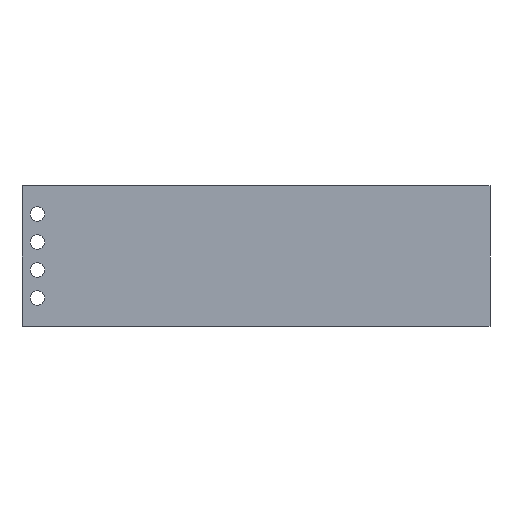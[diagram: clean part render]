
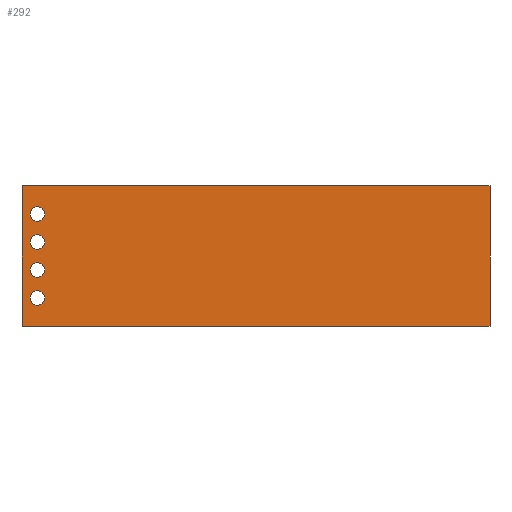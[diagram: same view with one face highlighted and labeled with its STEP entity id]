
A CAD part, front view. The second image highlights one B-rep face of the part: STEP entity #292.
In plain terms, the highlighted planar face has unit normal (0, -1, 0).
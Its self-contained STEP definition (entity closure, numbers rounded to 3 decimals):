
#25 = ORIENTED_EDGE ( 'NONE', *, *, #1377, .F. ) ;
#46 = EDGE_CURVE ( 'NONE', #1012, #1790, #1144, .T. ) ;
#86 = ORIENTED_EDGE ( 'NONE', *, *, #1474, .T. ) ;
#97 = VERTEX_POINT ( 'NONE', #146 ) ;
#127 = CARTESIAN_POINT ( 'NONE',  ( 98.049, -1.134, -16.2 ) ) ;
#128 = ORIENTED_EDGE ( 'NONE', *, *, #1263, .F. ) ;
#135 = DIRECTION ( 'NONE',  ( 1., 0., 0. ) ) ;
#140 = LINE ( 'NONE', #615, #344 ) ;
#146 = CARTESIAN_POINT ( 'NONE',  ( 98.049, -1.134, -6.8 ) ) ;
#161 = EDGE_LOOP ( 'NONE', ( #999, #505 ) ) ;
#178 = PLANE ( 'NONE',  #727 ) ;
#213 = CARTESIAN_POINT ( 'NONE',  ( 98.049, -1.134, -23. ) ) ;
#281 = CIRCLE ( 'NONE', #519, 1.4 ) ;
#292 = ADVANCED_FACE ( 'NONE', ( #666, #338, #1668, #977, #320 ), #178, .T. ) ;
#320 = FACE_OUTER_BOUND ( 'NONE', #1418, .T. ) ;
#338 = FACE_BOUND ( 'NONE', #1604, .T. ) ;
#344 = VECTOR ( 'NONE', #1285, 1000. ) ;
#374 = VECTOR ( 'NONE', #135, 1000. ) ;
#377 = VERTEX_POINT ( 'NONE', #526 ) ;
#392 = ORIENTED_EDGE ( 'NONE', *, *, #596, .F. ) ;
#472 = DIRECTION ( 'NONE',  ( 0., 0., -1. ) ) ;
#475 = DIRECTION ( 'NONE',  ( 0., 0., -1. ) ) ;
#482 = CIRCLE ( 'NONE', #1980, 1.4 ) ;
#499 = CARTESIAN_POINT ( 'NONE',  ( 185.049, -1.134, -124.693 ) ) ;
#505 = ORIENTED_EDGE ( 'NONE', *, *, #1026, .F. ) ;
#507 = CARTESIAN_POINT ( 'NONE',  ( 98.049, -1.134, -21.6 ) ) ;
#518 = CARTESIAN_POINT ( 'NONE',  ( 185.049, -1.134, 0. ) ) ;
#519 = AXIS2_PLACEMENT_3D ( 'NONE', #1916, #1258, #1764 ) ;
#526 = CARTESIAN_POINT ( 'NONE',  ( 98.049, -1.134, -9.4 ) ) ;
#547 = VERTEX_POINT ( 'NONE', #1718 ) ;
#555 = EDGE_LOOP ( 'NONE', ( #128, #2089 ) ) ;
#575 = DIRECTION ( 'NONE',  ( 0., -1., 0. ) ) ;
#577 = DIRECTION ( 'NONE',  ( 0., 0., -1. ) ) ;
#596 = EDGE_CURVE ( 'NONE', #1799, #2002, #638, .T. ) ;
#598 = ORIENTED_EDGE ( 'NONE', *, *, #46, .T. ) ;
#615 = CARTESIAN_POINT ( 'NONE',  ( 0., -1.134, -27. ) ) ;
#633 = CARTESIAN_POINT ( 'NONE',  ( 0., -1.134, -124.693 ) ) ;
#634 = CARTESIAN_POINT ( 'NONE',  ( 98.049, -1.134, -14.8 ) ) ;
#638 = CIRCLE ( 'NONE', #705, 1.4 ) ;
#642 = CIRCLE ( 'NONE', #1309, 1.4 ) ;
#652 = CARTESIAN_POINT ( 'NONE',  ( 98.049, -1.134, -5.4 ) ) ;
#658 = CIRCLE ( 'NONE', #1039, 1.4 ) ;
#666 = FACE_BOUND ( 'NONE', #1745, .T. ) ;
#672 = LINE ( 'NONE', #499, #1783 ) ;
#705 = AXIS2_PLACEMENT_3D ( 'NONE', #127, #761, #2096 ) ;
#727 = AXIS2_PLACEMENT_3D ( 'NONE', #633, #1971, #475 ) ;
#758 = DIRECTION ( 'NONE',  ( 0., 0., -1. ) ) ;
#761 = DIRECTION ( 'NONE',  ( 0., -1., 0. ) ) ;
#767 = EDGE_CURVE ( 'NONE', #1907, #377, #482, .T. ) ;
#796 = ORIENTED_EDGE ( 'NONE', *, *, #825, .F. ) ;
#800 = DIRECTION ( 'NONE',  ( 0., 0., -1. ) ) ;
#825 = EDGE_CURVE ( 'NONE', #1012, #1712, #1302, .T. ) ;
#832 = VECTOR ( 'NONE', #800, 1000. ) ;
#896 = AXIS2_PLACEMENT_3D ( 'NONE', #507, #1332, #1985 ) ;
#906 = AXIS2_PLACEMENT_3D ( 'NONE', #652, #1966, #472 ) ;
#919 = CARTESIAN_POINT ( 'NONE',  ( 98.049, -1.134, -20.2 ) ) ;
#954 = CARTESIAN_POINT ( 'NONE',  ( 0., -1.134, 0. ) ) ;
#958 = CARTESIAN_POINT ( 'NONE',  ( 98.049, -1.134, -12.2 ) ) ;
#969 = CARTESIAN_POINT ( 'NONE',  ( 98.049, -1.134, -21.6 ) ) ;
#977 = FACE_BOUND ( 'NONE', #161, .T. ) ;
#980 = DIRECTION ( 'NONE',  ( 0., 0., 1. ) ) ;
#999 = ORIENTED_EDGE ( 'NONE', *, *, #1382, .F. ) ;
#1012 = VERTEX_POINT ( 'NONE', #1833 ) ;
#1026 = EDGE_CURVE ( 'NONE', #97, #1759, #1123, .T. ) ;
#1039 = AXIS2_PLACEMENT_3D ( 'NONE', #2069, #575, #758 ) ;
#1075 = CARTESIAN_POINT ( 'NONE',  ( 95.099, -1.134, -27. ) ) ;
#1123 = CIRCLE ( 'NONE', #906, 1.4 ) ;
#1144 = LINE ( 'NONE', #1808, #832 ) ;
#1182 = ORIENTED_EDGE ( 'NONE', *, *, #1524, .F. ) ;
#1258 = DIRECTION ( 'NONE',  ( 0., -1., 0. ) ) ;
#1261 = VERTEX_POINT ( 'NONE', #919 ) ;
#1263 = EDGE_CURVE ( 'NONE', #377, #1907, #658, .T. ) ;
#1268 = CARTESIAN_POINT ( 'NONE',  ( 98.049, -1.134, -4. ) ) ;
#1285 = DIRECTION ( 'NONE',  ( 1., 0., 0. ) ) ;
#1288 = AXIS2_PLACEMENT_3D ( 'NONE', #1625, #1411, #577 ) ;
#1302 = LINE ( 'NONE', #954, #374 ) ;
#1303 = EDGE_CURVE ( 'NONE', #1790, #547, #140, .T. ) ;
#1309 = AXIS2_PLACEMENT_3D ( 'NONE', #969, #1961, #2001 ) ;
#1314 = CARTESIAN_POINT ( 'NONE',  ( 98.049, -1.134, -10.8 ) ) ;
#1332 = DIRECTION ( 'NONE',  ( 0., -1., 0. ) ) ;
#1377 = EDGE_CURVE ( 'NONE', #2002, #1799, #2153, .T. ) ;
#1382 = EDGE_CURVE ( 'NONE', #1759, #97, #281, .T. ) ;
#1411 = DIRECTION ( 'NONE',  ( 0., -1., 0. ) ) ;
#1418 = EDGE_LOOP ( 'NONE', ( #796, #598, #1574, #86 ) ) ;
#1474 = EDGE_CURVE ( 'NONE', #547, #1712, #672, .T. ) ;
#1478 = ORIENTED_EDGE ( 'NONE', *, *, #2005, .F. ) ;
#1524 = EDGE_CURVE ( 'NONE', #2140, #1261, #1841, .T. ) ;
#1574 = ORIENTED_EDGE ( 'NONE', *, *, #1303, .T. ) ;
#1604 = EDGE_LOOP ( 'NONE', ( #25, #392 ) ) ;
#1625 = CARTESIAN_POINT ( 'NONE',  ( 98.049, -1.134, -16.2 ) ) ;
#1638 = DIRECTION ( 'NONE',  ( 0., 0., -1. ) ) ;
#1649 = DIRECTION ( 'NONE',  ( 0., -1., 0. ) ) ;
#1668 = FACE_BOUND ( 'NONE', #555, .T. ) ;
#1712 = VERTEX_POINT ( 'NONE', #518 ) ;
#1718 = CARTESIAN_POINT ( 'NONE',  ( 185.049, -1.134, -27. ) ) ;
#1745 = EDGE_LOOP ( 'NONE', ( #1478, #1182 ) ) ;
#1759 = VERTEX_POINT ( 'NONE', #1268 ) ;
#1764 = DIRECTION ( 'NONE',  ( 0., 0., -1. ) ) ;
#1783 = VECTOR ( 'NONE', #980, 1000. ) ;
#1790 = VERTEX_POINT ( 'NONE', #1075 ) ;
#1799 = VERTEX_POINT ( 'NONE', #1946 ) ;
#1808 = CARTESIAN_POINT ( 'NONE',  ( 95.099, -1.134, 12. ) ) ;
#1833 = CARTESIAN_POINT ( 'NONE',  ( 95.099, -1.134, 0. ) ) ;
#1841 = CIRCLE ( 'NONE', #896, 1.4 ) ;
#1907 = VERTEX_POINT ( 'NONE', #958 ) ;
#1916 = CARTESIAN_POINT ( 'NONE',  ( 98.049, -1.134, -5.4 ) ) ;
#1946 = CARTESIAN_POINT ( 'NONE',  ( 98.049, -1.134, -17.6 ) ) ;
#1961 = DIRECTION ( 'NONE',  ( 0., -1., 0. ) ) ;
#1966 = DIRECTION ( 'NONE',  ( 0., -1., 0. ) ) ;
#1971 = DIRECTION ( 'NONE',  ( 0., -1., 0. ) ) ;
#1980 = AXIS2_PLACEMENT_3D ( 'NONE', #1314, #1649, #1638 ) ;
#1985 = DIRECTION ( 'NONE',  ( 0., 0., -1. ) ) ;
#2001 = DIRECTION ( 'NONE',  ( 0., 0., -1. ) ) ;
#2002 = VERTEX_POINT ( 'NONE', #634 ) ;
#2005 = EDGE_CURVE ( 'NONE', #1261, #2140, #642, .T. ) ;
#2069 = CARTESIAN_POINT ( 'NONE',  ( 98.049, -1.134, -10.8 ) ) ;
#2089 = ORIENTED_EDGE ( 'NONE', *, *, #767, .F. ) ;
#2096 = DIRECTION ( 'NONE',  ( 0., 0., -1. ) ) ;
#2140 = VERTEX_POINT ( 'NONE', #213 ) ;
#2153 = CIRCLE ( 'NONE', #1288, 1.4 ) ;
